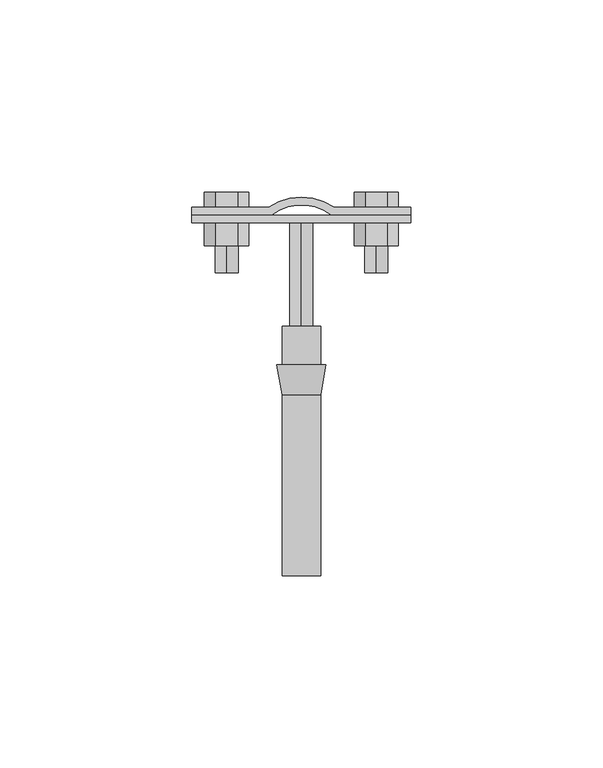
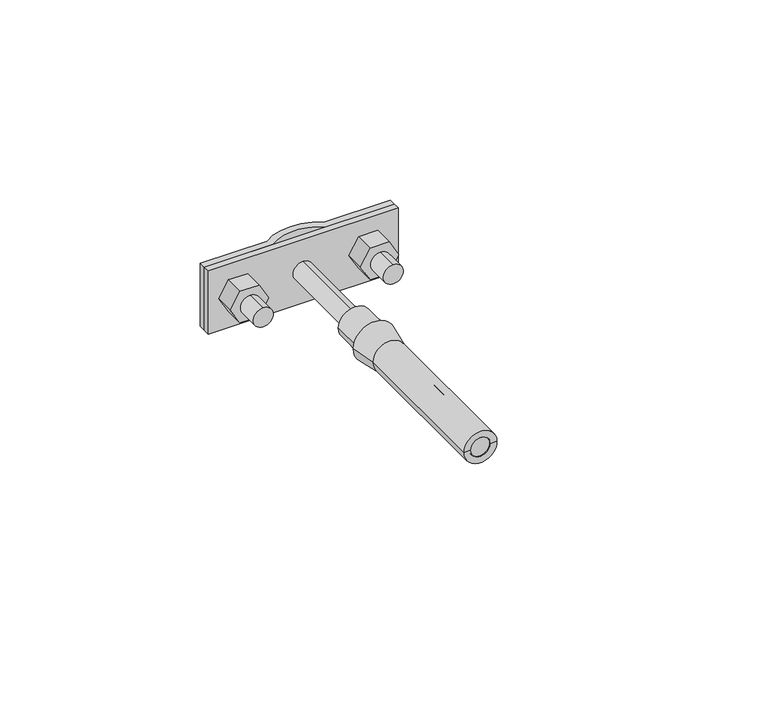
"""IFC4 building model written with IfcOpenShell, lengths in millimetres: proxy geometry, КНС_ДержательФасадный_DKC : ND2307_Горячеоцинкованная сталь_100 мм."""

import ifcopenshell
import ifcopenshell.guid

model = None  # the IFC model being written
_history = None  # IfcOwnerHistory: only IFC2X3 demands one
_inside = {}  # id of a spatial element -> (the spatial element, [elements in it])
_under = {}  # id of a project, library or spatial element -> (it, [spatial elements below it])
_declared = {}  # id of a project -> (the project, [libraries it declares])
_typed = {}  # id of a type object -> (the type object, [elements of that type])
_made_of = {}  # id of a material, layer set ... -> (it, [elements and type objects made of it])


def new_model(schema):
    """Start an empty IFC model of exactly this schema.

    Asked for "IFC4X3", IfcOpenShell would pick the latest addendum, in which some entities
    have other attributes; the version numbers below select the first issue.
    IFC2X3 requires an IfcOwnerHistory on every rooted entity: one is made here for all.
    """
    global model, _history
    if schema == "IFC4X3":
        model = ifcopenshell.file(schema_version=(4, 3, 0, 0))
    else:
        model = ifcopenshell.file(schema=schema)
    _inside.clear()
    _under.clear()
    _declared.clear()
    _typed.clear()
    _made_of.clear()
    _history = None
    if model.schema == "IFC2X3":
        org = make("IfcOrganization", Name="unknown")
        user = make(
            "IfcPersonAndOrganization",
            ThePerson=make("IfcPerson", FamilyName="unknown"),
            TheOrganization=org,
        )
        app = make(
            "IfcApplication",
            ApplicationDeveloper=org,
            Version="unknown",
            ApplicationFullName="unknown",
            ApplicationIdentifier="unknown",
        )
        _history = make(
            "IfcOwnerHistory",
            OwningUser=user,
            OwningApplication=app,
            ChangeAction="ADDED",
            CreationDate=0,
        )
    return model


def make(cls, **values):
    """One entity of the class cls with the attributes given. An attribute that is None is left unset."""
    return model.create_entity(
        cls, **{name: value for name, value in values.items() if value is not None}
    )


def rooted(cls, **values):
    """An entity with a GlobalId (a new one), such as an element, a storey or a relation."""
    return make(cls, GlobalId=ifcopenshell.guid.new(), OwnerHistory=_history, **values)


def si_unit(unit_type, name, prefix=None):
    """IfcSIUnit, for example si_unit("LENGTHUNIT", "METRE", prefix="MILLI")."""
    return make("IfcSIUnit", UnitType=unit_type, Prefix=prefix, Name=name)


def assignment(units):
    """IfcUnitAssignment: the units of a project."""
    return None if units is None else make("IfcUnitAssignment", Units=units)


def point(xyz):
    """IfcCartesianPoint."""
    return None if xyz is None else make("IfcCartesianPoint", Coordinates=xyz)


def direction(xyz):
    """IfcDirection."""
    return None if xyz is None else make("IfcDirection", DirectionRatios=xyz)


def frame(location, z_axis=None, x_axis=None):
    """IfcAxis2Placement3D, a coordinate frame: its origin and axes. An axis left out is left unset."""
    return make(
        "IfcAxis2Placement3D",
        Location=point(location),
        Axis=direction(z_axis),
        RefDirection=direction(x_axis),
    )


def frame_2d(location, x_axis=None):
    """IfcAxis2Placement2D, a coordinate frame in the plane: its origin and x axis."""
    return make(
        "IfcAxis2Placement2D", Location=point(location), RefDirection=direction(x_axis)
    )


def origin():
    """The frame at (0, 0, 0) with its axes left unset."""
    return frame((0.0, 0.0, 0.0))


def origin_2d():
    """The frame at (0, 0) in the plane with its x axis left unset."""
    return frame_2d((0.0, 0.0))


def place(relative_to, where):
    """IfcLocalPlacement: puts the frame where relative to a parent placement (None: the world)."""
    return make(
        "IfcLocalPlacement", PlacementRelTo=relative_to, RelativePlacement=where
    )


def context(
    kind, dimensions, precision=None, world=None, true_north=None, identifier=None
):
    """IfcGeometricRepresentationContext, for example the 3D "Model" context."""
    return make(
        "IfcGeometricRepresentationContext",
        ContextIdentifier=identifier,
        ContextType=kind,
        CoordinateSpaceDimension=dimensions,
        Precision=precision,
        WorldCoordinateSystem=world,
        TrueNorth=true_north,
    )


def project(units=None, contexts=None):
    """IfcProject with its units and contexts."""
    return rooted(
        "IfcProject",
        Name="project",
        RepresentationContexts=contexts,
        UnitsInContext=assignment(units),
    )


def spatial(cls, under=None, at=None, **own):
    """A site, building, storey or space (cls), placed at a placement, below another one or the project."""
    s = rooted(cls, ObjectPlacement=at, **own)
    if under is not None:
        _under.setdefault(under.id(), (under, []))[1].append(s)
    return s


def polyline(points):
    """IfcPolyline through the points."""
    return make("IfcPolyline", Points=[point(p) for p in points])


def circle_curve(where, radius):
    """IfcCircle in the frame where."""
    return make("IfcCircle", Position=where, Radius=radius)


def trimmed(basis, trim1, trim2, sense, master):
    """IfcTrimmedCurve: the piece of a basis curve between two trims."""
    return make(
        "IfcTrimmedCurve",
        BasisCurve=basis,
        Trim1=trim1,
        Trim2=trim2,
        SenseAgreement=sense,
        MasterRepresentation=master,
    )


def segment(curve, same_sense, transition):
    """IfcCompositeCurveSegment."""
    return make(
        "IfcCompositeCurveSegment",
        Transition=transition,
        SameSense=same_sense,
        ParentCurve=curve,
    )


def composite_curve(segments, self_intersect=None):
    """IfcCompositeCurve: segments joined end to end."""
    return make("IfcCompositeCurve", Segments=segments, SelfIntersect=self_intersect)


def outline(outer, holes=None, kind="AREA"):
    """IfcArbitraryClosedProfileDef: a profile drawn as a closed curve; with holes, ...WithVoids."""
    if holes is None:
        return make("IfcArbitraryClosedProfileDef", ProfileType=kind, OuterCurve=outer)
    return make(
        "IfcArbitraryProfileDefWithVoids",
        ProfileType=kind,
        OuterCurve=outer,
        InnerCurves=holes,
    )


def extrude(swept, where, along, depth):
    """IfcExtrudedAreaSolid: the profile swept, set in the frame where, extruded along a direction by depth."""
    return make(
        "IfcExtrudedAreaSolid",
        SweptArea=swept,
        Position=where,
        ExtrudedDirection=direction(along),
        Depth=depth,
    )


def shape(context_of_items, identifier, shape_type, items):
    """IfcShapeRepresentation: the items that make up one representation, for example the "Body"."""
    return make(
        "IfcShapeRepresentation",
        ContextOfItems=context_of_items,
        RepresentationIdentifier=identifier,
        RepresentationType=shape_type,
        Items=items,
    )


def source(mapping_origin, context_of_items, identifier, shape_type, items):
    """IfcRepresentationMap: a shape defined once, which mapped items show again and again."""
    return make(
        "IfcRepresentationMap",
        MappingOrigin=mapping_origin,
        MappedRepresentation=shape(context_of_items, identifier, shape_type, items),
    )


def transform(
    local_origin,
    x_axis=None,
    y_axis=None,
    z_axis=None,
    scale=None,
    scale2=None,
    scale3=None,
    uniform=True,
):
    """IfcCartesianTransformationOperator3D, or its non-uniform kind. x_axis, y_axis, z_axis: its Axis1, 2, 3."""
    if uniform:
        return make(
            "IfcCartesianTransformationOperator3D",
            Axis1=direction(x_axis),
            Axis2=direction(y_axis),
            LocalOrigin=point(local_origin),
            Scale=scale,
            Axis3=direction(z_axis),
        )
    return make(
        "IfcCartesianTransformationOperator3DnonUniform",
        Axis1=direction(x_axis),
        Axis2=direction(y_axis),
        LocalOrigin=point(local_origin),
        Scale=scale,
        Axis3=direction(z_axis),
        Scale2=scale2,
        Scale3=scale3,
    )


def mapped(mapping_source, mapping_target):
    """IfcMappedItem: shows the shape of a source again, moved by a transform."""
    return make(
        "IfcMappedItem", MappingSource=mapping_source, MappingTarget=mapping_target
    )


def made_of(thing, what):
    """Note that an element or type object is made of a material, layer set ...; save() writes the relation."""
    if what is not None:
        _made_of.setdefault(what.id(), (what, []))[1].append(thing)
    return thing


def element(
    cls,
    number,
    at=None,
    inside=None,
    cuts=None,
    type_object=None,
    material=None,
    context=None,
    identifier="Body",
    shape_type=None,
    held_by="IfcProductDefinitionShape",
    body=None,
    shapes=None,
    **own,
):
    """One element of the class cls, such as IfcWall. Its Tag is "e" and its number.

    at: its placement. inside: the storey or other place that contains it. cuts: it is an
    opening in that element (IfcRelVoidsElement). A single representation is given by context,
    identifier, shape_type and body (its items); several are given by shapes. held_by: the class
    of the entity that holds the representations. save() writes the other relations.
    """
    e = rooted(cls, Tag="e%d" % number, ObjectPlacement=at, **own)
    if body is not None:
        shapes = [shape(context, identifier, shape_type, body)]
    if shapes is not None:
        e.Representation = make(held_by, Representations=shapes)
    if inside is not None:
        _inside.setdefault(inside.id(), (inside, []))[1].append(e)
    if cuts is not None:
        rooted(
            "IfcRelVoidsElement", RelatingBuildingElement=cuts, RelatedOpeningElement=e
        )
    if type_object is not None:
        _typed.setdefault(type_object.id(), (type_object, []))[1].append(e)
    return made_of(e, material)


def aggregate(whole, parts):
    """IfcRelAggregates: a whole, such as a stair, and the parts it consists of."""
    return rooted("IfcRelAggregates", RelatingObject=whole, RelatedObjects=parts)


def save(model, path):
    """Write the relations noted so far, then the file.

    IfcRelAggregates (storeys below a building ...), IfcRelContainedInSpatialStructure (elements
    in a storey), IfcRelDefinesByType, IfcRelAssociatesMaterial and IfcRelDeclares: one each for
    every whole, place, type object, material and project.
    """
    for whole, parts in _under.values():
        aggregate(whole, parts)
    for where, things in _inside.values():
        rooted(
            "IfcRelContainedInSpatialStructure",
            RelatedElements=things,
            RelatingStructure=where,
        )
    for kind, things in _typed.values():
        rooted("IfcRelDefinesByType", RelatedObjects=things, RelatingType=kind)
    for what, things in _made_of.values():
        rooted("IfcRelAssociatesMaterial", RelatedObjects=things, RelatingMaterial=what)
    for by, libraries in _declared.values():
        rooted("IfcRelDeclares", RelatingContext=by, RelatedDefinitions=libraries)
    model.write(path)


def plane_surface(at):
    """IfcPlane: the flat surface through the origin of the frame at, square to its z axis."""
    return make("IfcPlane", Position=at)


def cylinder_surface(at, radius):
    """IfcCylindricalSurface: all points at the distance radius from the z axis of the frame at."""
    return make("IfcCylindricalSurface", Position=at, Radius=radius)


def revolved_surface(curve, axis_point, axis_direction):
    """IfcSurfaceOfRevolution: the curve turned about the line through axis_point along axis_direction."""
    return make(
        "IfcSurfaceOfRevolution",
        SweptCurve=make("IfcArbitraryOpenProfileDef", ProfileType="CURVE", Curve=curve),
        AxisPosition=make("IfcAxis1Placement", Location=point(axis_point), Axis=direction(axis_direction)),
    )


def advanced_brep(points, edges, surfaces, faces):
    """IfcAdvancedBrep: a solid bounded by faces that lie on surfaces and meet in shared edges.

    An edge is (start, end): straight between two places in points (the first is 0);
    or (start, end, curve); or (start, end, curve, False) where it runs against its curve.
    A face is (place in surfaces, loops), or (place, loops, False) where it looks against
    its surface's normal. A loop lists edges by number (the first is 1), with a minus sign
    where the edge is run from its end to its start. The first loop is the outer one.
    """
    corners = [point(p) for p in points]
    vertices = [make("IfcVertexPoint", VertexGeometry=c) for c in corners]
    made = []
    for start, end, *more in edges:
        made.append(
            make(
                "IfcEdgeCurve",
                EdgeStart=vertices[start],
                EdgeEnd=vertices[end],
                EdgeGeometry=more[0] if more else make("IfcPolyline", Points=[corners[start], corners[end]]),
                SameSense=more[1] if len(more) > 1 else True,
            )
        )
    hull = []
    for where, loops, *sense in faces:
        bounds = []
        for j, loop in enumerate(loops):
            ring = [make("IfcOrientedEdge", EdgeElement=made[abs(k) - 1], Orientation=k > 0) for k in loop]
            bounds.append(
                make(
                    "IfcFaceOuterBound" if j == 0 else "IfcFaceBound",
                    Bound=make("IfcEdgeLoop", EdgeList=ring),
                    Orientation=True,
                )
            )
        hull.append(make("IfcAdvancedFace", Bounds=bounds, FaceSurface=surfaces[where], SameSense=sense[0] if sense else True))
    return make("IfcAdvancedBrep", Outer=make("IfcClosedShell", CfsFaces=hull))


def security_devices_80b7fa10(model_context):
    return source(origin(), model_context, "Body", "SolidModel", [
        advanced_brep(
        [(6.3810583, -10.0, 0.0), (-6.3810583, -10.0, 0.0), (-5.0, -10.0, 0.0), (5.0, -10.0, 0.0), (5.0, -17.8323707, 0.0), (-5.0, -17.8323707, 0.0), (5.0, -65.0, 0.0), (-5.0, -65.0, 0.0), (3.0, -65.0, 0.0), (-3.0, -65.0, 0.0), (3.0, 0.0, 0.0), (-3.0, 0.0, 0.0), (5.0, 0.0, 0.0), (-5.0, 0.0, 0.0)],
        [
            (0, 1, circle_curve(frame((0.0, -10.0, 0.0), z_axis=(0.0, 1.0, 0.0), x_axis=(-1.0, 0.0, 0.0)), 6.3810583)),
            (1, 2),
            (2, 3, circle_curve(frame((0.0, -10.0, 0.0), z_axis=(0.0, -1.0, 0.0), x_axis=(-1.0, 0.0, 0.0)), 5.0)),
            (3, 0),
            (1, 0, circle_curve(frame((0.0, -10.0, 0.0), z_axis=(0.0, 1.0, 0.0), x_axis=(-1.0, 0.0, 0.0)), 6.3810583)),
            (3, 2, circle_curve(frame((0.0, -10.0, 0.0), z_axis=(0.0, -1.0, 0.0), x_axis=(-1.0, 0.0, 0.0)), 5.0)),
            (4, 5, circle_curve(frame((0.0, -17.8323707, 0.0), z_axis=(0.0, 1.0, 0.0), x_axis=(-1.0, 0.0, 0.0)), 5.0)),
            (5, 1),
            (0, 4),
            (5, 4, circle_curve(frame((0.0, -17.8323707, 0.0), z_axis=(0.0, 1.0, 0.0), x_axis=(-1.0, 0.0, 0.0)), 5.0)),
            (6, 7, circle_curve(frame((0.0, -65.0, 0.0), z_axis=(0.0, 1.0, 0.0), x_axis=(-1.0, 0.0, 0.0)), 5.0)),
            (7, 5),
            (4, 6),
            (7, 6, circle_curve(frame((0.0, -65.0, 0.0), z_axis=(0.0, 1.0, 0.0), x_axis=(-1.0, 0.0, 0.0)), 5.0)),
            (8, 9, circle_curve(frame((0.0, -65.0, 0.0), z_axis=(0.0, 1.0, 0.0), x_axis=(-1.0, 0.0, 0.0)), 3.0)),
            (9, 7),
            (6, 8),
            (9, 8, circle_curve(frame((0.0, -65.0, 0.0), z_axis=(0.0, 1.0, 0.0), x_axis=(-1.0, 0.0, 0.0)), 3.0)),
            (10, 11, circle_curve(frame((0.0, 0.0, 0.0), z_axis=(0.0, 1.0, 0.0), x_axis=(-1.0, 0.0, 0.0)), 3.0)),
            (11, 9),
            (8, 10),
            (11, 10, circle_curve(frame((0.0, 0.0, 0.0), z_axis=(0.0, 1.0, 0.0), x_axis=(-1.0, 0.0, 0.0)), 3.0)),
            (12, 13, circle_curve(frame((0.0, 0.0, 0.0), z_axis=(0.0, 1.0, 0.0), x_axis=(-1.0, 0.0, 0.0)), 5.0)),
            (13, 11),
            (10, 12),
            (13, 12, circle_curve(frame((0.0, 0.0, 0.0), z_axis=(0.0, 1.0, 0.0), x_axis=(-1.0, 0.0, 0.0)), 5.0)),
            (2, 13),
            (12, 3),
        ],
        [
            plane_surface(frame((0.0, -10.0, 0.0), z_axis=(0.0, 1.0, 0.0), x_axis=(-1.0, 0.0, 0.0))),
            revolved_surface(polyline([(-6.3810583, -10.0, 0.0), (-5.0, -17.8323707, 0.0)]), (0.0, 2000.0, 0.0), (0.0, -1.0, 0.0)),
            cylinder_surface(frame((0.0, 2000.0, 0.0), z_axis=(0.0, -1.0, 0.0), x_axis=(-1.0, 0.0, 0.0)), 5.0),
            plane_surface(frame((0.0, -65.0, 0.0), z_axis=(0.0, -1.0, 0.0), x_axis=(-1.0, 0.0, 0.0))),
            revolved_surface(polyline([(-3.0, -65.0, 0.0), (-3.0, 0.0, 0.0)]), (0.0, 2000.0, 0.0), (0.0, -1.0, 0.0)),
            plane_surface(frame((0.0, 0.0, 0.0), z_axis=(0.0, 1.0, 0.0), x_axis=(-1.0, 0.0, 0.0))),
        ],
        [
            (0, [[1, 2, 3, 4]]),
            (0, [[5, -4, 6, -2]]),
            (1, [[7, 8, -1, 9]]),
            (1, [[10, -9, -5, -8]]),
            (2, [[11, 12, -7, 13]]),
            (2, [[14, -13, -10, -12]]),
            (3, [[15, 16, -11, 17]]),
            (3, [[18, -17, -14, -16]]),
            (4, [[19, 20, -15, 21]]),
            (4, [[22, -21, -18, -20]]),
            (5, [[23, 24, -19, 25]]),
            (5, [[26, -25, -22, -24]]),
            (2, [[-3, 27, -23, 28]]),
            (2, [[-6, -28, -26, -27]]),
        ],
    ),
        extrude(outline(polyline([(0.0, 25.2735027), (5.0, 22.3867513), (5.0, 16.6132487), (0.0, 13.7264973), (-5.0, 16.6132487), (-5.0, 22.3867513), (0.0, 25.2735027)])), frame((0.0, 21.0, 0.0), z_axis=(0.0, 1.0, 0.0), x_axis=(0.0, 0.0, 1.0)), (0.0, 0.0, 1.0), 6.0),
        extrude(outline(polyline([(0.0, -13.7264973), (5.0, -16.6132487), (5.0, -22.3867513), (0.0, -25.2735027), (-5.0, -22.3867513), (-5.0, -16.6132487), (0.0, -13.7264973)])), frame((0.0, 21.0, 0.0), z_axis=(0.0, 1.0, 0.0), x_axis=(0.0, 0.0, 1.0)), (0.0, 0.0, 1.0), 6.0),
        extrude(outline(composite_curve([segment(trimmed(circle_curve(frame_2d((0.0, 19.5)), 3.0), [point((-3.0, 19.5))], [point((3.0, 19.5))], False, "CARTESIAN"), True, "CONTINUOUS"), segment(trimmed(circle_curve(frame_2d((0.0, 19.5)), 3.0), [point((3.0, 19.5))], [point((-3.0, 19.5))], False, "CARTESIAN"), True, "CONTINUOUS")], self_intersect=False)), frame((0.0, 14.0, 0.0), z_axis=(0.0, 1.0, 0.0), x_axis=(0.0, 0.0, 1.0)), (0.0, 0.0, 1.0), 13.0),
        extrude(outline(polyline([(0.0, 25.2735027), (5.0, 22.3867513), (5.0, 16.6132487), (0.0, 13.7264973), (-5.0, 16.6132487), (-5.0, 22.3867513), (0.0, 25.2735027)])), frame((0.0, 31.0, 0.0), z_axis=(0.0, 1.0, 0.0), x_axis=(0.0, 0.0, 1.0)), (0.0, 0.0, 1.0), 4.0),
        extrude(outline(polyline([(0.0, -13.7264973), (5.0, -16.6132487), (5.0, -22.3867513), (0.0, -25.2735027), (-5.0, -22.3867513), (-5.0, -16.6132487), (0.0, -13.7264973)])), frame((0.0, 31.0, 0.0), z_axis=(0.0, 1.0, 0.0), x_axis=(0.0, 0.0, 1.0)), (0.0, 0.0, 1.0), 4.0),
        extrude(outline(composite_curve([segment(trimmed(circle_curve(frame_2d((0.0, -19.5)), 3.0), [point((-3.0, -19.5))], [point((3.0, -19.5))], False, "CARTESIAN"), True, "CONTINUOUS"), segment(trimmed(circle_curve(frame_2d((0.0, -19.5)), 3.0), [point((3.0, -19.5))], [point((-3.0, -19.5))], False, "CARTESIAN"), True, "CONTINUOUS")], self_intersect=False)), frame((0.0, 14.0, 0.0), z_axis=(0.0, 1.0, 0.0), x_axis=(0.0, 0.0, 1.0)), (0.0, 0.0, 1.0), 13.0),
        extrude(outline(composite_curve([segment(trimmed(circle_curve(origin_2d(), 3.0), [point((-3.0, 0.0))], [point((3.0, 0.0))], False, "CARTESIAN"), True, "CONTINUOUS"), segment(trimmed(circle_curve(origin_2d(), 3.0), [point((3.0, 0.0))], [point((-3.0, 0.0))], False, "CARTESIAN"), True, "CONTINUOUS")], self_intersect=False)), frame((0.0, -65.0, 0.0), z_axis=(0.0, 1.0, 0.0), x_axis=(0.0, 0.0, 1.0)), (0.0, 0.0, 1.0), 92.0),
        extrude(outline(polyline([(-28.5, 27.0), (-28.5, 29.0), (28.5, 29.0), (28.5, 27.0), (-28.5, 27.0)])), frame((0.0, 0.0, -10.0), z_axis=(0.0, 0.0, 1.0), x_axis=(1.0, 0.0, 0.0)), (0.0, 0.0, 1.0), 20.0),
        extrude(outline(composite_curve([segment(trimmed(circle_curve(frame_2d((0.0, 18.8700945)), 14.8116376), [point((-8.5, 31.0))], [point((8.5, 31.0))], False, "CARTESIAN"), True, "CONTINUOUS"), segment(polyline([(8.5, 31.0), (28.5, 31.0), (28.5, 29.0), (7.9035116, 29.0)]), True, "CONTINUOUS"), segment(trimmed(circle_curve(frame_2d((0.0, 18.3768959)), 13.2406887), [point((7.9035116, 29.0))], [point((-7.9035116, 29.0))], True, "CARTESIAN"), True, "CONTINUOUS"), segment(polyline([(-7.9035116, 29.0), (-28.5, 29.0), (-28.5, 31.0), (-8.5, 31.0)]), True, "CONTINUOUS")], self_intersect=False)), frame((0.0, 0.0, -10.0), z_axis=(0.0, 0.0, 1.0), x_axis=(1.0, 0.0, 0.0)), (0.0, 0.0, 1.0), 20.0),
    ])


if __name__ == "__main__":
    model = new_model("IFC4")
    model_context = context("Model", 3, world=origin())
    ifc_project = project(units=[si_unit("LENGTHUNIT", "METRE", prefix="MILLI")], contexts=[model_context])
    site = spatial("IfcSite", under=ifc_project)
    building = spatial("IfcBuilding", under=site)
    placement = place(None, origin())
    security_devices_shape = security_devices_80b7fa10(model_context)
    element("IfcBuildingElementProxy", 1, Name="КНС_ДержательФасадный_DKC : ND2307_Горячеоцинкованная сталь_100 мм", ObjectType="КНС_ДержательФасадный_DKC : ND2307_Горячеоцинкованная сталь_100 мм", at=placement, inside=building, context=model_context, shape_type="MappedRepresentation", body=[
        mapped(security_devices_shape, transform((0.0, 0.0, 0.0), x_axis=(1.0, 0.0, 0.0), y_axis=(0.0, 1.0, 0.0), z_axis=(0.0, 0.0, 1.0))),
    ])
    save(model, "model.ifc")
